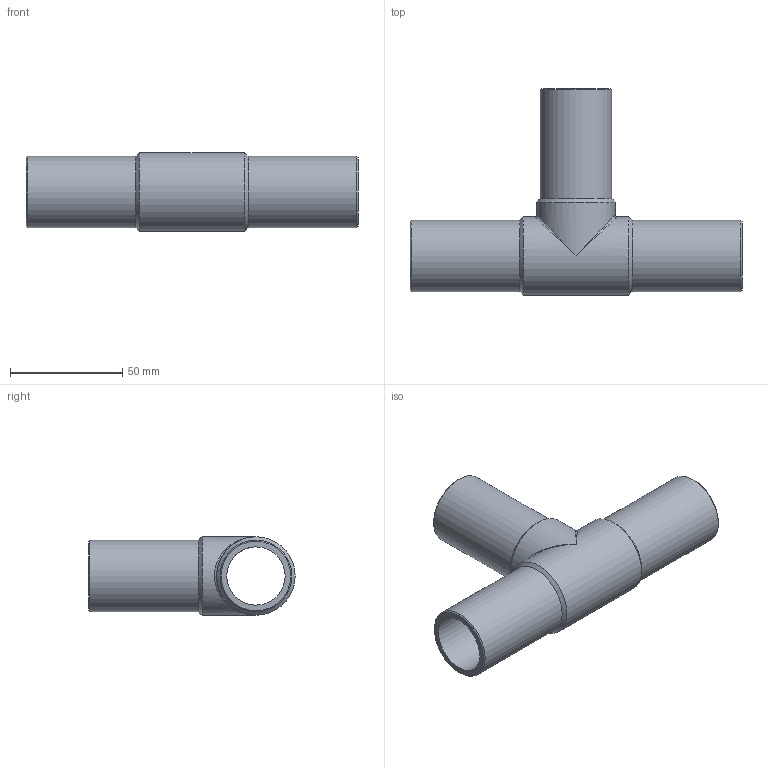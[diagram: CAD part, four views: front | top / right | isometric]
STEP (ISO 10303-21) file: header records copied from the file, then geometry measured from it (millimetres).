
FILE_DESCRIPTION(/* description */ ('Unknown'),/* implementation_level */ '2;1');
FILE_NAME(/* name */ 'TP032C',/* time_stamp */ '2021-08-11T17:50:04+02:00',/* author */ ('Unknown'),/* organization */ ('Unknown'),/* preprocessor_version */ 'ST-DEVELOPER v16.7',/* originating_system */ 'Solid Edge',/* authorisation */ 'Unknown');
FILE_SCHEMA (('AUTOMOTIVE_DESIGN {1 0 10303 214 3 1 1}'));
Length unit declared in the file: millimetre
Products named in the file (1): TP032C
Bounding box: 148 x 92 x 35 mm (x, y, z)
Volume: 63910.6 mm3; surface area: 38339.1 mm2
Topology: 1 solids, 1 shells, 18 faces, 44 edges, 23 vertices
Faces by surface type: cylinder 7, cone 6, plane 3, bspline 2
Full cylindrical faces by diameter (mm): 26 x2, 32 x3, 35 x2
Entity records: 480 total; most frequent: CARTESIAN_POINT 123, DIRECTION 76, ORIENTED_EDGE 42, AXIS2_PLACEMENT_3D 38, EDGE_LOOP 36, FACE_BOUND 36, EDGE_CURVE 21, VERTEX_POINT 19
